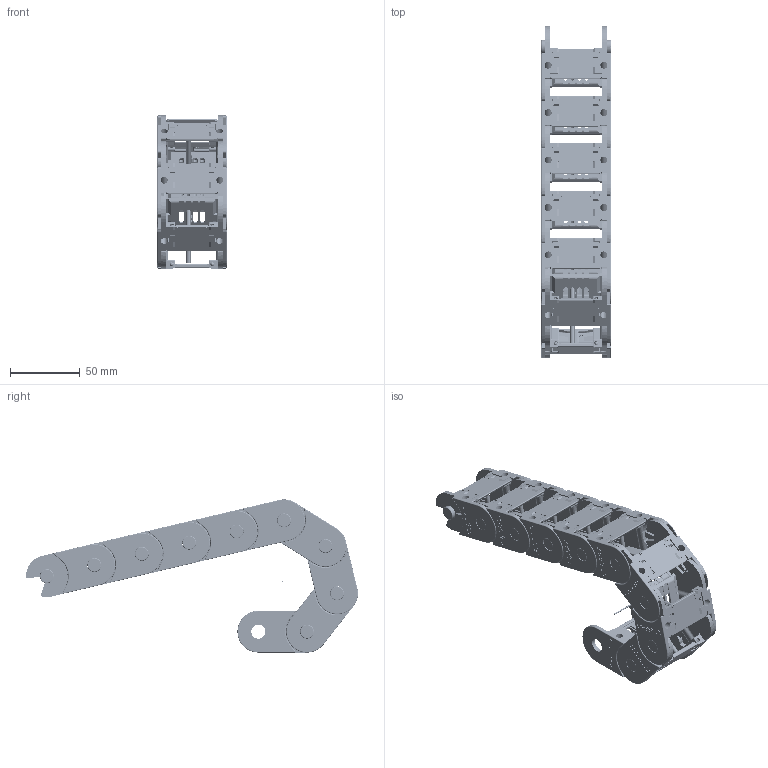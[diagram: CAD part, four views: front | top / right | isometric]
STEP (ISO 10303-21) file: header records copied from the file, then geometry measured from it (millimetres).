
FILE_DESCRIPTION((''),'2;1');
FILE_NAME('C:\Uebbing\PARAMETERKETTEN\KOLIBRI\Kol_30_050_1\KOLIBRI 30_050_1_R40.stp','2012-03-05T08:15:06',('Uebbing'),(''),'Autodesk Inventor 10','Autodesk Inventor 10','');
FILE_SCHEMA(('AUTOMOTIVE_DESIGN { 1 0 10303 214 1 1 1 1 }'));
Length unit declared in the file: millimetre
Products named in the file (6): KOLIBRI 30_050_1_PARAMETRISCH; Achse; Kol_30_050_1; PZ 30 Stecksteg; Kol 30_050_1 Lasche; Kol 30_050_0 Klappsteg
Assembly tree (13 placements, depth 3):
  KOLIBRI 30_050_1_PARAMETRISCH
    Achse
    Kol_30_050_1  x9
      PZ 30 Stecksteg
      Kol 30_050_1 Lasche
      Kol 30_050_0 Klappsteg
Bounding box: 50 x 238.4 x 109.99 mm (x, y, z)
Volume: 133069.8 mm3; surface area: 134943.7 mm2
Topology: 28 solids, 28 shells, 8598 faces, 23494 edges, 15393 vertices
Faces by surface type: plane 4331, bspline 2070, cylinder 1702, torus 387, cone 72, sphere 36
Full cylindrical faces by diameter (mm): 1 x1, 1.166 x9, 2.048 x9, 2.8 x72, 5.1 x18, 10 x9, 10.1 x18
Entity records: 33066 total; most frequent: CARTESIAN_POINT 9818, ORIENTED_EDGE 5142, DIRECTION 4188, EDGE_CURVE 2571, VERTEX_POINT 1699, VECTOR 1612, LINE 1612, AXIS2_PLACEMENT_3D 1288
